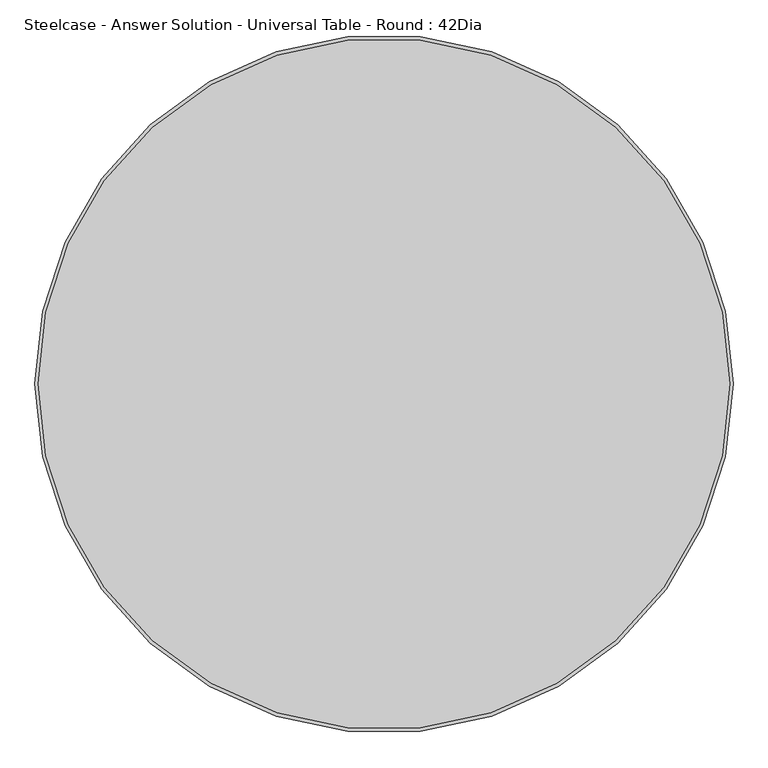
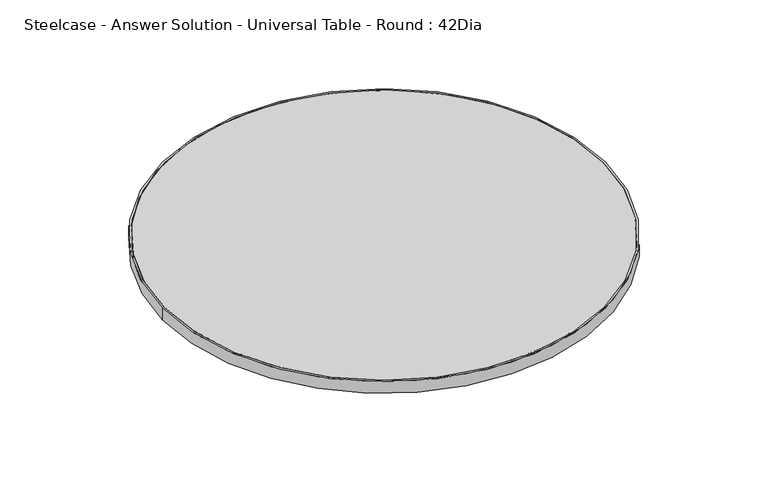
"""IFC4 building model written with IfcOpenShell, lengths in millimetres: furniture geometry, Steelcase - Answer Solution - Universal Table - Round : 42Dia."""

import ifcopenshell
import ifcopenshell.guid

model = None  # the IFC model being written
_history = None  # IfcOwnerHistory: only IFC2X3 demands one
_inside = {}  # id of a spatial element -> (the spatial element, [elements in it])
_under = {}  # id of a project, library or spatial element -> (it, [spatial elements below it])
_declared = {}  # id of a project -> (the project, [libraries it declares])
_typed = {}  # id of a type object -> (the type object, [elements of that type])
_made_of = {}  # id of a material, layer set ... -> (it, [elements and type objects made of it])


def new_model(schema):
    """Start an empty IFC model of exactly this schema.

    Asked for "IFC4X3", IfcOpenShell would pick the latest addendum, in which some entities
    have other attributes; the version numbers below select the first issue.
    IFC2X3 requires an IfcOwnerHistory on every rooted entity: one is made here for all.
    """
    global model, _history
    if schema == "IFC4X3":
        model = ifcopenshell.file(schema_version=(4, 3, 0, 0))
    else:
        model = ifcopenshell.file(schema=schema)
    _inside.clear()
    _under.clear()
    _declared.clear()
    _typed.clear()
    _made_of.clear()
    _history = None
    if model.schema == "IFC2X3":
        org = make("IfcOrganization", Name="unknown")
        user = make(
            "IfcPersonAndOrganization",
            ThePerson=make("IfcPerson", FamilyName="unknown"),
            TheOrganization=org,
        )
        app = make(
            "IfcApplication",
            ApplicationDeveloper=org,
            Version="unknown",
            ApplicationFullName="unknown",
            ApplicationIdentifier="unknown",
        )
        _history = make(
            "IfcOwnerHistory",
            OwningUser=user,
            OwningApplication=app,
            ChangeAction="ADDED",
            CreationDate=0,
        )
    return model


def make(cls, **values):
    """One entity of the class cls with the attributes given. An attribute that is None is left unset."""
    return model.create_entity(
        cls, **{name: value for name, value in values.items() if value is not None}
    )


def rooted(cls, **values):
    """An entity with a GlobalId (a new one), such as an element, a storey or a relation."""
    return make(cls, GlobalId=ifcopenshell.guid.new(), OwnerHistory=_history, **values)


def si_unit(unit_type, name, prefix=None):
    """IfcSIUnit, for example si_unit("LENGTHUNIT", "METRE", prefix="MILLI")."""
    return make("IfcSIUnit", UnitType=unit_type, Prefix=prefix, Name=name)


def assignment(units):
    """IfcUnitAssignment: the units of a project."""
    return None if units is None else make("IfcUnitAssignment", Units=units)


def point(xyz):
    """IfcCartesianPoint."""
    return None if xyz is None else make("IfcCartesianPoint", Coordinates=xyz)


def direction(xyz):
    """IfcDirection."""
    return None if xyz is None else make("IfcDirection", DirectionRatios=xyz)


def frame(location, z_axis=None, x_axis=None):
    """IfcAxis2Placement3D, a coordinate frame: its origin and axes. An axis left out is left unset."""
    return make(
        "IfcAxis2Placement3D",
        Location=point(location),
        Axis=direction(z_axis),
        RefDirection=direction(x_axis),
    )


def frame_2d(location, x_axis=None):
    """IfcAxis2Placement2D, a coordinate frame in the plane: its origin and x axis."""
    return make(
        "IfcAxis2Placement2D", Location=point(location), RefDirection=direction(x_axis)
    )


def origin():
    """The frame at (0, 0, 0) with its axes left unset."""
    return frame((0.0, 0.0, 0.0))


def origin_2d():
    """The frame at (0, 0) in the plane with its x axis left unset."""
    return frame_2d((0.0, 0.0))


def place(relative_to, where):
    """IfcLocalPlacement: puts the frame where relative to a parent placement (None: the world)."""
    return make(
        "IfcLocalPlacement", PlacementRelTo=relative_to, RelativePlacement=where
    )


def context(
    kind, dimensions, precision=None, world=None, true_north=None, identifier=None
):
    """IfcGeometricRepresentationContext, for example the 3D "Model" context."""
    return make(
        "IfcGeometricRepresentationContext",
        ContextIdentifier=identifier,
        ContextType=kind,
        CoordinateSpaceDimension=dimensions,
        Precision=precision,
        WorldCoordinateSystem=world,
        TrueNorth=true_north,
    )


def project(units=None, contexts=None):
    """IfcProject with its units and contexts."""
    return rooted(
        "IfcProject",
        Name="project",
        RepresentationContexts=contexts,
        UnitsInContext=assignment(units),
    )


def spatial(cls, under=None, at=None, **own):
    """A site, building, storey or space (cls), placed at a placement, below another one or the project."""
    s = rooted(cls, ObjectPlacement=at, **own)
    if under is not None:
        _under.setdefault(under.id(), (under, []))[1].append(s)
    return s


def circle_curve(where, radius):
    """IfcCircle in the frame where."""
    return make("IfcCircle", Position=where, Radius=radius)


def trimmed(basis, trim1, trim2, sense, master):
    """IfcTrimmedCurve: the piece of a basis curve between two trims."""
    return make(
        "IfcTrimmedCurve",
        BasisCurve=basis,
        Trim1=trim1,
        Trim2=trim2,
        SenseAgreement=sense,
        MasterRepresentation=master,
    )


def segment(curve, same_sense, transition):
    """IfcCompositeCurveSegment."""
    return make(
        "IfcCompositeCurveSegment",
        Transition=transition,
        SameSense=same_sense,
        ParentCurve=curve,
    )


def composite_curve(segments, self_intersect=None):
    """IfcCompositeCurve: segments joined end to end."""
    return make("IfcCompositeCurve", Segments=segments, SelfIntersect=self_intersect)


def outline(outer, holes=None, kind="AREA"):
    """IfcArbitraryClosedProfileDef: a profile drawn as a closed curve; with holes, ...WithVoids."""
    if holes is None:
        return make("IfcArbitraryClosedProfileDef", ProfileType=kind, OuterCurve=outer)
    return make(
        "IfcArbitraryProfileDefWithVoids",
        ProfileType=kind,
        OuterCurve=outer,
        InnerCurves=holes,
    )


def extrude(swept, where, along, depth):
    """IfcExtrudedAreaSolid: the profile swept, set in the frame where, extruded along a direction by depth."""
    return make(
        "IfcExtrudedAreaSolid",
        SweptArea=swept,
        Position=where,
        ExtrudedDirection=direction(along),
        Depth=depth,
    )


def shape(context_of_items, identifier, shape_type, items):
    """IfcShapeRepresentation: the items that make up one representation, for example the "Body"."""
    return make(
        "IfcShapeRepresentation",
        ContextOfItems=context_of_items,
        RepresentationIdentifier=identifier,
        RepresentationType=shape_type,
        Items=items,
    )


def source(mapping_origin, context_of_items, identifier, shape_type, items):
    """IfcRepresentationMap: a shape defined once, which mapped items show again and again."""
    return make(
        "IfcRepresentationMap",
        MappingOrigin=mapping_origin,
        MappedRepresentation=shape(context_of_items, identifier, shape_type, items),
    )


def transform(
    local_origin,
    x_axis=None,
    y_axis=None,
    z_axis=None,
    scale=None,
    scale2=None,
    scale3=None,
    uniform=True,
):
    """IfcCartesianTransformationOperator3D, or its non-uniform kind. x_axis, y_axis, z_axis: its Axis1, 2, 3."""
    if uniform:
        return make(
            "IfcCartesianTransformationOperator3D",
            Axis1=direction(x_axis),
            Axis2=direction(y_axis),
            LocalOrigin=point(local_origin),
            Scale=scale,
            Axis3=direction(z_axis),
        )
    return make(
        "IfcCartesianTransformationOperator3DnonUniform",
        Axis1=direction(x_axis),
        Axis2=direction(y_axis),
        LocalOrigin=point(local_origin),
        Scale=scale,
        Axis3=direction(z_axis),
        Scale2=scale2,
        Scale3=scale3,
    )


def mapped(mapping_source, mapping_target):
    """IfcMappedItem: shows the shape of a source again, moved by a transform."""
    return make(
        "IfcMappedItem", MappingSource=mapping_source, MappingTarget=mapping_target
    )


def made_of(thing, what):
    """Note that an element or type object is made of a material, layer set ...; save() writes the relation."""
    if what is not None:
        _made_of.setdefault(what.id(), (what, []))[1].append(thing)
    return thing


def element(
    cls,
    number,
    at=None,
    inside=None,
    cuts=None,
    type_object=None,
    material=None,
    context=None,
    identifier="Body",
    shape_type=None,
    held_by="IfcProductDefinitionShape",
    body=None,
    shapes=None,
    **own,
):
    """One element of the class cls, such as IfcWall. Its Tag is "e" and its number.

    at: its placement. inside: the storey or other place that contains it. cuts: it is an
    opening in that element (IfcRelVoidsElement). A single representation is given by context,
    identifier, shape_type and body (its items); several are given by shapes. held_by: the class
    of the entity that holds the representations. save() writes the other relations.
    """
    e = rooted(cls, Tag="e%d" % number, ObjectPlacement=at, **own)
    if body is not None:
        shapes = [shape(context, identifier, shape_type, body)]
    if shapes is not None:
        e.Representation = make(held_by, Representations=shapes)
    if inside is not None:
        _inside.setdefault(inside.id(), (inside, []))[1].append(e)
    if cuts is not None:
        rooted(
            "IfcRelVoidsElement", RelatingBuildingElement=cuts, RelatedOpeningElement=e
        )
    if type_object is not None:
        _typed.setdefault(type_object.id(), (type_object, []))[1].append(e)
    return made_of(e, material)


def aggregate(whole, parts):
    """IfcRelAggregates: a whole, such as a stair, and the parts it consists of."""
    return rooted("IfcRelAggregates", RelatingObject=whole, RelatedObjects=parts)


def save(model, path):
    """Write the relations noted so far, then the file.

    IfcRelAggregates (storeys below a building ...), IfcRelContainedInSpatialStructure (elements
    in a storey), IfcRelDefinesByType, IfcRelAssociatesMaterial and IfcRelDeclares: one each for
    every whole, place, type object, material and project.
    """
    for whole, parts in _under.values():
        aggregate(whole, parts)
    for where, things in _inside.values():
        rooted(
            "IfcRelContainedInSpatialStructure",
            RelatedElements=things,
            RelatingStructure=where,
        )
    for kind, things in _typed.values():
        rooted("IfcRelDefinesByType", RelatedObjects=things, RelatingType=kind)
    for what, things in _made_of.values():
        rooted("IfcRelAssociatesMaterial", RelatedObjects=things, RelatingMaterial=what)
    for by, libraries in _declared.values():
        rooted("IfcRelDeclares", RelatingContext=by, RelatedDefinitions=libraries)
    model.write(path)


def steelcase_answer_solution_universal_table_round_42dia_902c1210(model_context):
    return source(origin(), model_context, "Body", "SweptSolid", [
        extrude(outline(composite_curve([segment(trimmed(circle_curve(origin_2d(), 538.48), [point((-538.48, 0.0))], [point((538.48, 0.0))], False, "CARTESIAN"), True, "CONTINUOUS"), segment(trimmed(circle_curve(origin_2d(), 538.48), [point((538.48, 0.0))], [point((-538.48, 0.0))], False, "CARTESIAN"), True, "CONTINUOUS")], self_intersect=False), holes=[composite_curve([segment(trimmed(circle_curve(origin_2d(), 533.4), [point((533.4, 0.0))], [point((-533.4, 0.0))], True, "CARTESIAN"), True, "CONTINUOUS"), segment(trimmed(circle_curve(origin_2d(), 533.4), [point((-533.4, 0.0))], [point((533.4, 0.0))], True, "CARTESIAN"), True, "CONTINUOUS")], self_intersect=False)]), frame((0.0, 0.0, 668.274), z_axis=(0.0, 0.0, 1.0), x_axis=(1.0, 0.0, 0.0)), (0.0, 0.0, 1.0), 30.0990349),
        extrude(outline(composite_curve([segment(trimmed(circle_curve(origin_2d(), 533.4), [point((-533.4, 0.0))], [point((533.4, 0.0))], False, "CARTESIAN"), True, "CONTINUOUS"), segment(trimmed(circle_curve(origin_2d(), 533.4), [point((533.4, 0.0))], [point((-533.4, 0.0))], False, "CARTESIAN"), True, "CONTINUOUS")], self_intersect=False)), frame((0.0, 0.0, 668.274), z_axis=(0.0, 0.0, 1.0), x_axis=(1.0, 0.0, 0.0)), (0.0, 0.0, 1.0), 30.0990349),
    ])


if __name__ == "__main__":
    model = new_model("IFC4")
    model_context = context("Model", 3, world=origin())
    ifc_project = project(units=[si_unit("LENGTHUNIT", "METRE", prefix="MILLI")], contexts=[model_context])
    site = spatial("IfcSite", under=ifc_project)
    building = spatial("IfcBuilding", under=site)
    placement = place(None, origin())
    steelcase_answer_solution_universal_table_round_42dia_shape = steelcase_answer_solution_universal_table_round_42dia_902c1210(model_context)
    element("IfcFurniture", 1, ObjectType="Steelcase - Answer Solution - Universal Table - Round : 42Dia", at=placement, inside=building, context=model_context, shape_type="MappedRepresentation", body=[
        mapped(steelcase_answer_solution_universal_table_round_42dia_shape, transform((0.0, 0.0, 0.0), x_axis=(1.0, 0.0, 0.0), y_axis=(0.0, 1.0, 0.0), z_axis=(0.0, 0.0, 1.0))),
    ])
    save(model, "model.ifc")
